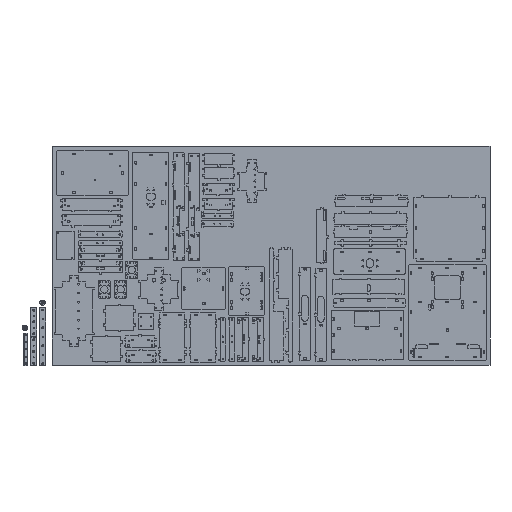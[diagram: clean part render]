
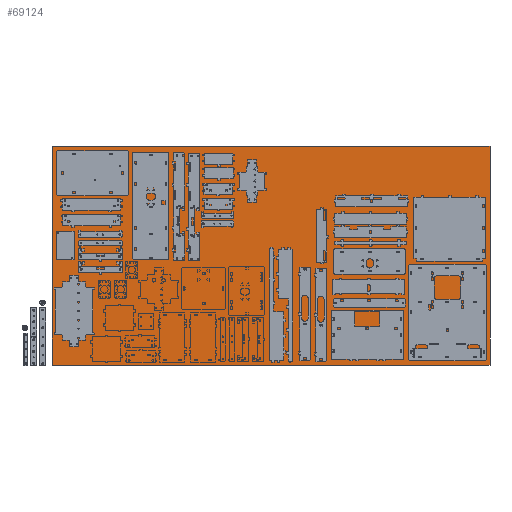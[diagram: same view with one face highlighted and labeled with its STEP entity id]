
A CAD part, top view. The second image highlights one B-rep face of the part: STEP entity #69124.
In plain terms, the highlighted planar face has unit normal (0, 0, 1).
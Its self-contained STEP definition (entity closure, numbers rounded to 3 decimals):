
#7862=FACE_OUTER_BOUND('',#11557,.T.);
#11557=EDGE_LOOP('',(#46033,#46034,#46035,#46036));
#15866=LINE('',#97116,#21957);
#15870=LINE('',#97124,#21961);
#15873=LINE('',#97130,#21964);
#15876=LINE('',#97135,#21967);
#21957=VECTOR('',#79220,10.);
#21961=VECTOR('',#79226,10.);
#21964=VECTOR('',#79231,10.);
#21967=VECTOR('',#79236,10.);
#28048=VERTEX_POINT('',#97114);
#28049=VERTEX_POINT('',#97115);
#28052=VERTEX_POINT('',#97123);
#28054=VERTEX_POINT('',#97129);
#35253=EDGE_CURVE('',#28048,#28049,#15866,.T.);
#35257=EDGE_CURVE('',#28049,#28052,#15870,.T.);
#35260=EDGE_CURVE('',#28052,#28054,#15873,.T.);
#35263=EDGE_CURVE('',#28054,#28048,#15876,.T.);
#46033=ORIENTED_EDGE('',*,*,#35263,.T.);
#46034=ORIENTED_EDGE('',*,*,#35253,.T.);
#46035=ORIENTED_EDGE('',*,*,#35257,.T.);
#46036=ORIENTED_EDGE('',*,*,#35260,.T.);
#67549=PLANE('',#73317);
#69124=ADVANCED_FACE('',(#7862),#67549,.T.);
#73317=AXIS2_PLACEMENT_3D('',#97137,#79238,#79239);
#79220=DIRECTION('',(1.,0.,0.));
#79226=DIRECTION('',(0.,1.,0.));
#79231=DIRECTION('',(-1.,0.,0.));
#79236=DIRECTION('',(0.,-1.,0.));
#79238=DIRECTION('center_axis',(0.,0.,1.));
#79239=DIRECTION('ref_axis',(1.,0.,0.));
#97114=CARTESIAN_POINT('',(0.,0.,0.));
#97115=CARTESIAN_POINT('',(2440.,0.,0.));
#97116=CARTESIAN_POINT('',(0.,0.,0.));
#97123=CARTESIAN_POINT('',(2440.,1220.,0.));
#97124=CARTESIAN_POINT('',(2440.,0.,0.));
#97129=CARTESIAN_POINT('',(0.,1220.,0.));
#97130=CARTESIAN_POINT('',(2440.,1220.,0.));
#97135=CARTESIAN_POINT('',(0.,1220.,0.));
#97137=CARTESIAN_POINT('Origin',(1220.,610.,0.));
